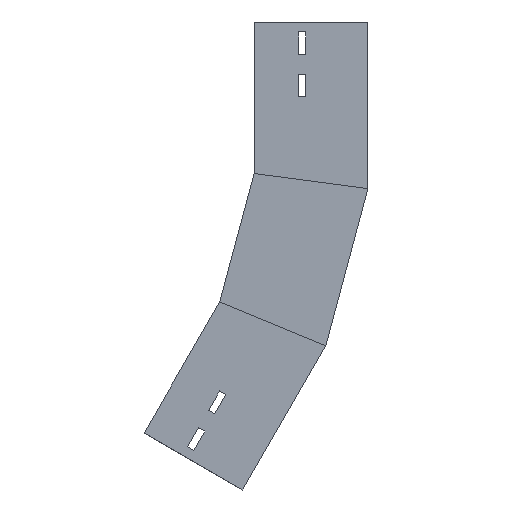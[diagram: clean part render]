
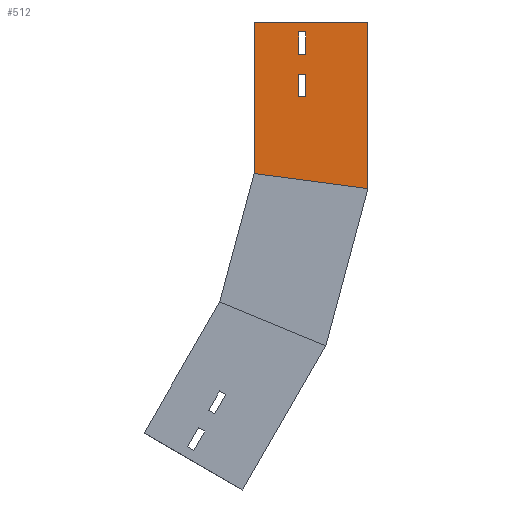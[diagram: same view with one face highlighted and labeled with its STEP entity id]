
A CAD part, left-side view. The second image highlights one B-rep face of the part: STEP entity #512.
In plain terms, the highlighted planar face has unit normal (-1, 0, 0) as drawn and (1, 0, 0) by its records, which use the part's own axes.
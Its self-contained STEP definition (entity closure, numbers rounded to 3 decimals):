
#7 = LINE ( 'NONE', #474, #1300 ) ;
#13 = VERTEX_POINT ( 'NONE', #498 ) ;
#16 = LINE ( 'NONE', #380, #318 ) ;
#52 = ORIENTED_EDGE ( 'NONE', *, *, #824, .F. ) ;
#61 = EDGE_CURVE ( 'NONE', #424, #888, #1301, .T. ) ;
#66 = CARTESIAN_POINT ( 'NONE',  ( 0., 172.287, -423.298 ) ) ;
#78 = ORIENTED_EDGE ( 'NONE', *, *, #172, .F. ) ;
#82 = EDGE_LOOP ( 'NONE', ( #78, #52, #617, #196 ) ) ;
#101 = ORIENTED_EDGE ( 'NONE', *, *, #61, .T. ) ;
#126 = ORIENTED_EDGE ( 'NONE', *, *, #272, .F. ) ;
#162 = DIRECTION ( 'NONE',  ( 0., -0.866, -0.5 ) ) ;
#168 = DIRECTION ( 'NONE',  ( 0., 0.866, 0.5 ) ) ;
#169 = CARTESIAN_POINT ( 'NONE',  ( 0., 139.072, -263.767 ) ) ;
#172 = EDGE_CURVE ( 'NONE', #1045, #1013, #1269, .T. ) ;
#196 = ORIENTED_EDGE ( 'NONE', *, *, #1208, .F. ) ;
#198 = EDGE_CURVE ( 'NONE', #946, #13, #16, .T. ) ;
#202 = VECTOR ( 'NONE', #1245, 1000. ) ;
#205 = DIRECTION ( 'NONE',  ( 0., 0., 1. ) ) ;
#211 = DIRECTION ( 'NONE',  ( 0., 0.5, -0.866 ) ) ;
#233 = CARTESIAN_POINT ( 'NONE',  ( 0., 157.514, -383.711 ) ) ;
#263 = AXIS2_PLACEMENT_3D ( 'NONE', #485, #1173, #205 ) ;
#272 = EDGE_CURVE ( 'NONE', #1193, #946, #988, .T. ) ;
#290 = DIRECTION ( 'NONE',  ( 0., 0.5, -0.866 ) ) ;
#297 = EDGE_CURVE ( 'NONE', #861, #424, #882, .T. ) ;
#318 = VECTOR ( 'NONE', #162, 1000. ) ;
#339 = EDGE_LOOP ( 'NONE', ( #126, #677, #1065, #1349 ) ) ;
#380 = CARTESIAN_POINT ( 'NONE',  ( 0., 167.349, -400.745 ) ) ;
#389 = VECTOR ( 'NONE', #688, 1000. ) ;
#412 = EDGE_CURVE ( 'NONE', #785, #1193, #1317, .T. ) ;
#417 = CARTESIAN_POINT ( 'NONE',  ( 0., 140.452, -368.158 ) ) ;
#424 = VERTEX_POINT ( 'NONE', #622 ) ;
#474 = CARTESIAN_POINT ( 'NONE',  ( 0., 172.287, -423.298 ) ) ;
#478 = CARTESIAN_POINT ( 'NONE',  ( 0., 157.514, -383.711 ) ) ;
#485 = CARTESIAN_POINT ( 'NONE',  ( 0., 41.644, -320.017 ) ) ;
#497 = EDGE_CURVE ( 'NONE', #13, #785, #7, .T. ) ;
#498 = CARTESIAN_POINT ( 'NONE',  ( 0., 161.287, -404.245 ) ) ;
#510 = ORIENTED_EDGE ( 'NONE', *, *, #1265, .F. ) ;
#512 = ADVANCED_FACE ( 'NONE', ( #1165, #585, #1406 ), #712, .F. ) ;
#585 = FACE_BOUND ( 'NONE', #82, .T. ) ;
#590 = LINE ( 'NONE', #997, #816 ) ;
#598 = DIRECTION ( 'NONE',  ( 0., 0.5, -0.866 ) ) ;
#605 = EDGE_CURVE ( 'NONE', #943, #861, #947, .T. ) ;
#617 = ORIENTED_EDGE ( 'NONE', *, *, #883, .F. ) ;
#622 = CARTESIAN_POINT ( 'NONE',  ( 0., 123.944, -462.565 ) ) ;
#623 = DIRECTION ( 'NONE',  ( 0., 0.5, -0.866 ) ) ;
#644 = VECTOR ( 'NONE', #168, 1000. ) ;
#664 = CARTESIAN_POINT ( 'NONE',  ( 0., 221.372, -406.315 ) ) ;
#677 = ORIENTED_EDGE ( 'NONE', *, *, #412, .F. ) ;
#688 = DIRECTION ( 'NONE',  ( 0., -0.5, 0.866 ) ) ;
#702 = CARTESIAN_POINT ( 'NONE',  ( 0., 167.349, -400.745 ) ) ;
#710 = DIRECTION ( 'NONE',  ( 0., -0.924, -0.383 ) ) ;
#712 = PLANE ( 'NONE',  #263 ) ;
#733 = VECTOR ( 'NONE', #846, 1000. ) ;
#735 = CARTESIAN_POINT ( 'NONE',  ( 0., 178.349, -419.798 ) ) ;
#785 = VERTEX_POINT ( 'NONE', #66 ) ;
#816 = VECTOR ( 'NONE', #1116, 1000. ) ;
#824 = EDGE_CURVE ( 'NONE', #1160, #1045, #1468, .T. ) ;
#826 = EDGE_LOOP ( 'NONE', ( #1420, #872, #101, #510 ) ) ;
#835 = VECTOR ( 'NONE', #710, 1000. ) ;
#846 = DIRECTION ( 'NONE',  ( 0., 0.866, 0.5 ) ) ;
#848 = VECTOR ( 'NONE', #211, 1000. ) ;
#861 = VERTEX_POINT ( 'NONE', #1366 ) ;
#872 = ORIENTED_EDGE ( 'NONE', *, *, #297, .T. ) ;
#882 = LINE ( 'NONE', #1437, #1355 ) ;
#883 = EDGE_CURVE ( 'NONE', #906, #1160, #1252, .T. ) ;
#888 = VERTEX_POINT ( 'NONE', #664 ) ;
#906 = VERTEX_POINT ( 'NONE', #417 ) ;
#937 = CARTESIAN_POINT ( 'NONE',  ( 0., 146.514, -364.658 ) ) ;
#943 = VERTEX_POINT ( 'NONE', #1146 ) ;
#946 = VERTEX_POINT ( 'NONE', #702 ) ;
#947 = LINE ( 'NONE', #1172, #835 ) ;
#982 = DIRECTION ( 'NONE',  ( 0., -0.5, 0.866 ) ) ;
#988 = LINE ( 'NONE', #1223, #1237 ) ;
#997 = CARTESIAN_POINT ( 'NONE',  ( 0., 146.514, -364.658 ) ) ;
#1013 = VERTEX_POINT ( 'NONE', #937 ) ;
#1025 = CARTESIAN_POINT ( 'NONE',  ( 0., 151.452, -387.211 ) ) ;
#1045 = VERTEX_POINT ( 'NONE', #478 ) ;
#1065 = ORIENTED_EDGE ( 'NONE', *, *, #497, .F. ) ;
#1076 = CARTESIAN_POINT ( 'NONE',  ( 0., 151.452, -387.211 ) ) ;
#1116 = DIRECTION ( 'NONE',  ( 0., -0.866, -0.5 ) ) ;
#1146 = CARTESIAN_POINT ( 'NONE',  ( 0., 146.477, -276.594 ) ) ;
#1160 = VERTEX_POINT ( 'NONE', #1076 ) ;
#1165 = FACE_BOUND ( 'NONE', #339, .T. ) ;
#1172 = CARTESIAN_POINT ( 'NONE',  ( 0., 61.047, -311.98 ) ) ;
#1173 = DIRECTION ( 'NONE',  ( -1., 0., 0. ) ) ;
#1192 = CARTESIAN_POINT ( 'NONE',  ( 0., 123.944, -462.565 ) ) ;
#1193 = VERTEX_POINT ( 'NONE', #1291 ) ;
#1208 = EDGE_CURVE ( 'NONE', #1013, #906, #590, .T. ) ;
#1223 = CARTESIAN_POINT ( 'NONE',  ( 0., 178.349, -419.798 ) ) ;
#1226 = VECTOR ( 'NONE', #623, 1000. ) ;
#1237 = VECTOR ( 'NONE', #982, 1000. ) ;
#1245 = DIRECTION ( 'NONE',  ( 0., 0.866, 0.5 ) ) ;
#1252 = LINE ( 'NONE', #1025, #848 ) ;
#1265 = EDGE_CURVE ( 'NONE', #943, #888, #1362, .T. ) ;
#1269 = LINE ( 'NONE', #233, #389 ) ;
#1291 = CARTESIAN_POINT ( 'NONE',  ( 0., 178.349, -419.798 ) ) ;
#1300 = VECTOR ( 'NONE', #598, 1000. ) ;
#1301 = LINE ( 'NONE', #1192, #733 ) ;
#1317 = LINE ( 'NONE', #735, #644 ) ;
#1349 = ORIENTED_EDGE ( 'NONE', *, *, #198, .F. ) ;
#1355 = VECTOR ( 'NONE', #290, 1000. ) ;
#1362 = LINE ( 'NONE', #169, #1226 ) ;
#1366 = CARTESIAN_POINT ( 'NONE',  ( 0., 41.644, -320.017 ) ) ;
#1406 = FACE_OUTER_BOUND ( 'NONE', #826, .T. ) ;
#1420 = ORIENTED_EDGE ( 'NONE', *, *, #605, .T. ) ;
#1437 = CARTESIAN_POINT ( 'NONE',  ( 0., 41.644, -320.017 ) ) ;
#1461 = CARTESIAN_POINT ( 'NONE',  ( 0., 157.514, -383.711 ) ) ;
#1468 = LINE ( 'NONE', #1461, #202 ) ;
